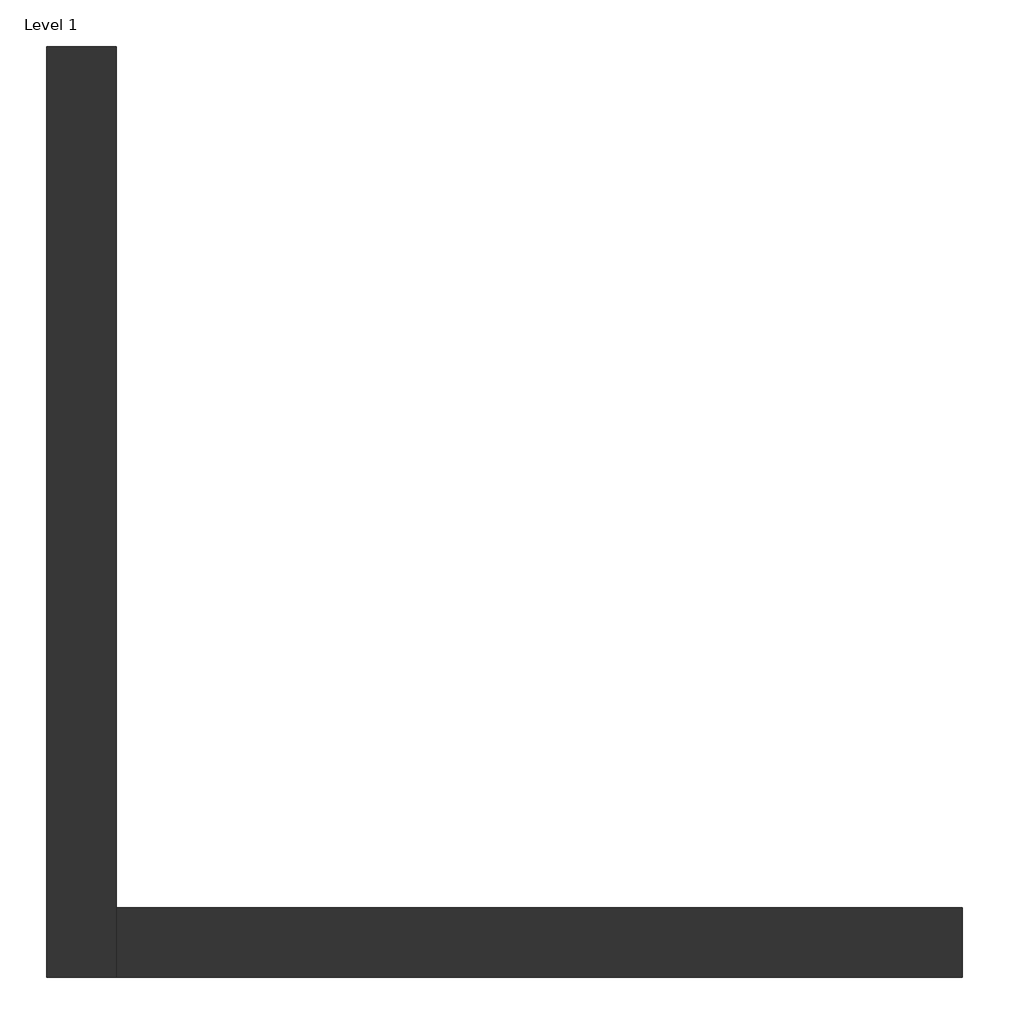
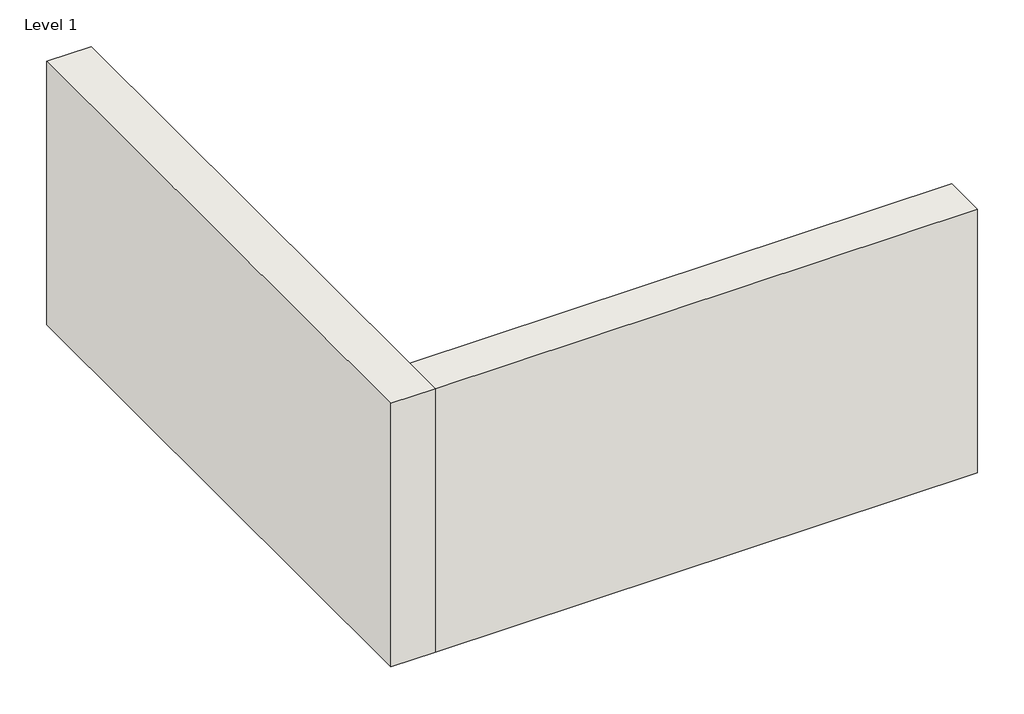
# One storey, incomplete: 2 walls.
"""IFC4 building model written with IfcOpenShell, lengths in millimetres."""

import ifcopenshell
import ifcopenshell.guid

model = None  # the IFC model being written
_history = None  # IfcOwnerHistory: only IFC2X3 demands one
_inside = {}  # id of a spatial element -> (the spatial element, [elements in it])
_under = {}  # id of a project, library or spatial element -> (it, [spatial elements below it])
_declared = {}  # id of a project -> (the project, [libraries it declares])
_typed = {}  # id of a type object -> (the type object, [elements of that type])
_made_of = {}  # id of a material, layer set ... -> (it, [elements and type objects made of it])


def new_model(schema):
    """Start an empty IFC model of exactly this schema.

    Asked for "IFC4X3", IfcOpenShell would pick the latest addendum, in which some entities
    have other attributes; the version numbers below select the first issue.
    IFC2X3 requires an IfcOwnerHistory on every rooted entity: one is made here for all.
    """
    global model, _history
    if schema == "IFC4X3":
        model = ifcopenshell.file(schema_version=(4, 3, 0, 0))
    else:
        model = ifcopenshell.file(schema=schema)
    _inside.clear()
    _under.clear()
    _declared.clear()
    _typed.clear()
    _made_of.clear()
    _history = None
    if model.schema == "IFC2X3":
        org = make("IfcOrganization", Name="unknown")
        user = make(
            "IfcPersonAndOrganization",
            ThePerson=make("IfcPerson", FamilyName="unknown"),
            TheOrganization=org,
        )
        app = make(
            "IfcApplication",
            ApplicationDeveloper=org,
            Version="unknown",
            ApplicationFullName="unknown",
            ApplicationIdentifier="unknown",
        )
        _history = make(
            "IfcOwnerHistory",
            OwningUser=user,
            OwningApplication=app,
            ChangeAction="ADDED",
            CreationDate=0,
        )
    return model


def make(cls, **values):
    """One entity of the class cls with the attributes given. An attribute that is None is left unset."""
    return model.create_entity(
        cls, **{name: value for name, value in values.items() if value is not None}
    )


def rooted(cls, **values):
    """An entity with a GlobalId (a new one), such as an element, a storey or a relation."""
    return make(cls, GlobalId=ifcopenshell.guid.new(), OwnerHistory=_history, **values)


def si_unit(unit_type, name, prefix=None):
    """IfcSIUnit, for example si_unit("LENGTHUNIT", "METRE", prefix="MILLI")."""
    return make("IfcSIUnit", UnitType=unit_type, Prefix=prefix, Name=name)


def assignment(units):
    """IfcUnitAssignment: the units of a project."""
    return None if units is None else make("IfcUnitAssignment", Units=units)


def point(xyz):
    """IfcCartesianPoint."""
    return None if xyz is None else make("IfcCartesianPoint", Coordinates=xyz)


def direction(xyz):
    """IfcDirection."""
    return None if xyz is None else make("IfcDirection", DirectionRatios=xyz)


def frame(location, z_axis=None, x_axis=None):
    """IfcAxis2Placement3D, a coordinate frame: its origin and axes. An axis left out is left unset."""
    return make(
        "IfcAxis2Placement3D",
        Location=point(location),
        Axis=direction(z_axis),
        RefDirection=direction(x_axis),
    )


def origin():
    """The frame at (0, 0, 0) with its axes left unset."""
    return frame((0.0, 0.0, 0.0))


def origin_with_axes():
    """The frame at (0, 0, 0) with the z axis (0, 0, 1) and the x axis (1, 0, 0) written out."""
    return frame((0.0, 0.0, 0.0), z_axis=(0.0, 0.0, 1.0), x_axis=(1.0, 0.0, 0.0))


def place(relative_to, where):
    """IfcLocalPlacement: puts the frame where relative to a parent placement (None: the world)."""
    return make(
        "IfcLocalPlacement", PlacementRelTo=relative_to, RelativePlacement=where
    )


def context(
    kind, dimensions, precision=None, world=None, true_north=None, identifier=None
):
    """IfcGeometricRepresentationContext, for example the 3D "Model" context."""
    return make(
        "IfcGeometricRepresentationContext",
        ContextIdentifier=identifier,
        ContextType=kind,
        CoordinateSpaceDimension=dimensions,
        Precision=precision,
        WorldCoordinateSystem=world,
        TrueNorth=true_north,
    )


def project(units=None, contexts=None):
    """IfcProject with its units and contexts."""
    return rooted(
        "IfcProject",
        Name="project",
        RepresentationContexts=contexts,
        UnitsInContext=assignment(units),
    )


def spatial(cls, under=None, at=None, **own):
    """A site, building, storey or space (cls), placed at a placement, below another one or the project."""
    s = rooted(cls, ObjectPlacement=at, **own)
    if under is not None:
        _under.setdefault(under.id(), (under, []))[1].append(s)
    return s


def polyline(points):
    """IfcPolyline through the points."""
    return make("IfcPolyline", Points=[point(p) for p in points])


def outline(outer, holes=None, kind="AREA"):
    """IfcArbitraryClosedProfileDef: a profile drawn as a closed curve; with holes, ...WithVoids."""
    if holes is None:
        return make("IfcArbitraryClosedProfileDef", ProfileType=kind, OuterCurve=outer)
    return make(
        "IfcArbitraryProfileDefWithVoids",
        ProfileType=kind,
        OuterCurve=outer,
        InnerCurves=holes,
    )


def extrude(swept, where, along, depth):
    """IfcExtrudedAreaSolid: the profile swept, set in the frame where, extruded along a direction by depth."""
    return make(
        "IfcExtrudedAreaSolid",
        SweptArea=swept,
        Position=where,
        ExtrudedDirection=direction(along),
        Depth=depth,
    )


def faces_of(points, faces, orient=None, outer=None):
    """IfcFace entities. A face is a list of loops; a loop is a list of indices into points, from 0.

    orient and outer hold one flag for each loop. By default every Orientation is true, the
    first loop of a face is its IfcFaceOuterBound and the others are IfcFaceBound.
    """
    made = []
    for i, loops in enumerate(faces):
        bounds = []
        for j, loop in enumerate(loops):
            is_outer = j == 0 if outer is None else outer[i][j]
            bounds.append(
                make(
                    "IfcFaceOuterBound" if is_outer else "IfcFaceBound",
                    Bound=make("IfcPolyLoop", Polygon=[points[k] for k in loop]),
                    Orientation=True if orient is None else orient[i][j],
                )
            )
        made.append(make("IfcFace", Bounds=bounds))
    return made


def faceted_brep(points, faces, orient=None, outer=None, voids=None):
    """IfcFacetedBrep: a solid bounded by flat faces; with voids (closed shells), ...WithVoids."""
    shared = [point(p) for p in points]
    hull = make("IfcClosedShell", CfsFaces=faces_of(shared, faces, orient, outer))
    if voids is None:
        return make("IfcFacetedBrep", Outer=hull)
    return make(
        "IfcFacetedBrepWithVoids",
        Outer=hull,
        Voids=[
            make(cls, CfsFaces=faces_of(shared, fs, o, b)) for cls, fs, o, b in voids
        ],
    )


def shape(context_of_items, identifier, shape_type, items):
    """IfcShapeRepresentation: the items that make up one representation, for example the "Body"."""
    return make(
        "IfcShapeRepresentation",
        ContextOfItems=context_of_items,
        RepresentationIdentifier=identifier,
        RepresentationType=shape_type,
        Items=items,
    )


def made_of(thing, what):
    """Note that an element or type object is made of a material, layer set ...; save() writes the relation."""
    if what is not None:
        _made_of.setdefault(what.id(), (what, []))[1].append(thing)
    return thing


def element(
    cls,
    number,
    at=None,
    inside=None,
    cuts=None,
    type_object=None,
    material=None,
    context=None,
    identifier="Body",
    shape_type=None,
    held_by="IfcProductDefinitionShape",
    body=None,
    shapes=None,
    **own,
):
    """One element of the class cls, such as IfcWall. Its Tag is "e" and its number.

    at: its placement. inside: the storey or other place that contains it. cuts: it is an
    opening in that element (IfcRelVoidsElement). A single representation is given by context,
    identifier, shape_type and body (its items); several are given by shapes. held_by: the class
    of the entity that holds the representations. save() writes the other relations.
    """
    e = rooted(cls, Tag="e%d" % number, ObjectPlacement=at, **own)
    if body is not None:
        shapes = [shape(context, identifier, shape_type, body)]
    if shapes is not None:
        e.Representation = make(held_by, Representations=shapes)
    if inside is not None:
        _inside.setdefault(inside.id(), (inside, []))[1].append(e)
    if cuts is not None:
        rooted(
            "IfcRelVoidsElement", RelatingBuildingElement=cuts, RelatedOpeningElement=e
        )
    if type_object is not None:
        _typed.setdefault(type_object.id(), (type_object, []))[1].append(e)
    return made_of(e, material)


def aggregate(whole, parts):
    """IfcRelAggregates: a whole, such as a stair, and the parts it consists of."""
    return rooted("IfcRelAggregates", RelatingObject=whole, RelatedObjects=parts)


def save(model, path):
    """Write the relations noted so far, then the file.

    IfcRelAggregates (storeys below a building ...), IfcRelContainedInSpatialStructure (elements
    in a storey), IfcRelDefinesByType, IfcRelAssociatesMaterial and IfcRelDeclares: one each for
    every whole, place, type object, material and project.
    """
    for whole, parts in _under.values():
        aggregate(whole, parts)
    for where, things in _inside.values():
        rooted(
            "IfcRelContainedInSpatialStructure",
            RelatedElements=things,
            RelatingStructure=where,
        )
    for kind, things in _typed.values():
        rooted("IfcRelDefinesByType", RelatedObjects=things, RelatingType=kind)
    for what, things in _made_of.values():
        rooted("IfcRelAssociatesMaterial", RelatedObjects=things, RelatingMaterial=what)
    for by, libraries in _declared.values():
        rooted("IfcRelDeclares", RelatingContext=by, RelatedDefinitions=libraries)
    model.write(path)


model = new_model("IFC4")

# Units and contexts
model_context = context("Model", 3, world=origin())
ifc_project = project(units=[si_unit("LENGTHUNIT", "METRE", prefix="MILLI")], contexts=[model_context])

# Site, building, storey
site = spatial("IfcSite", under=ifc_project)
building = spatial("IfcBuilding", under=site)
storey = spatial("IfcBuildingStorey", under=building, Name="Level 1", Elevation=0.0)

# Walls
placement = place(None, origin())
element("IfcWall", 1, ObjectType="Wall 1", at=placement, inside=storey, context=model_context, shape_type="Brep", body=[
    faceted_brep([(-5330.1382624, 4512.3443008, 0.0), (-5330.1382624, 1794.5443008, 0.0), (-5330.1382624, 1794.5443008, 1270.0), (-5330.1382624, 4512.3443008, 1270.0), (-5126.9382624, 4512.3443008, 0.0), (-5126.9382624, 4512.3443008, 1270.0), (-5126.9382624, 1997.7443008, 1270.0), (-5126.9382624, 1794.5443008, 1270.0), (-5126.9382624, 1794.5443008, 0.0), (-5126.9382624, 1997.7443008, 0.0)], [[[0, 1, 2, 3]], [[4, 5, 6, 7, 8, 9]], [[1, 0, 4, 9, 8]], [[3, 2, 7, 6, 5]], [[0, 3, 5, 4]], [[2, 1, 8, 7]]]),
])
element("IfcWall", 2, ObjectType="Wall 1", at=placement, inside=storey, context=model_context, shape_type="SweptSolid", body=[
    extrude(outline(polyline([(-5126.9382624, 1997.7443008), (-2656.7882624, 1997.7443008), (-2656.7882624, 1794.5443008), (-5126.9382624, 1794.5443008), (-5126.9382624, 1997.7443008)])), origin_with_axes(), (0.0, 0.0, 1.0), 1270.0),
])

save(model, "model.ifc")
